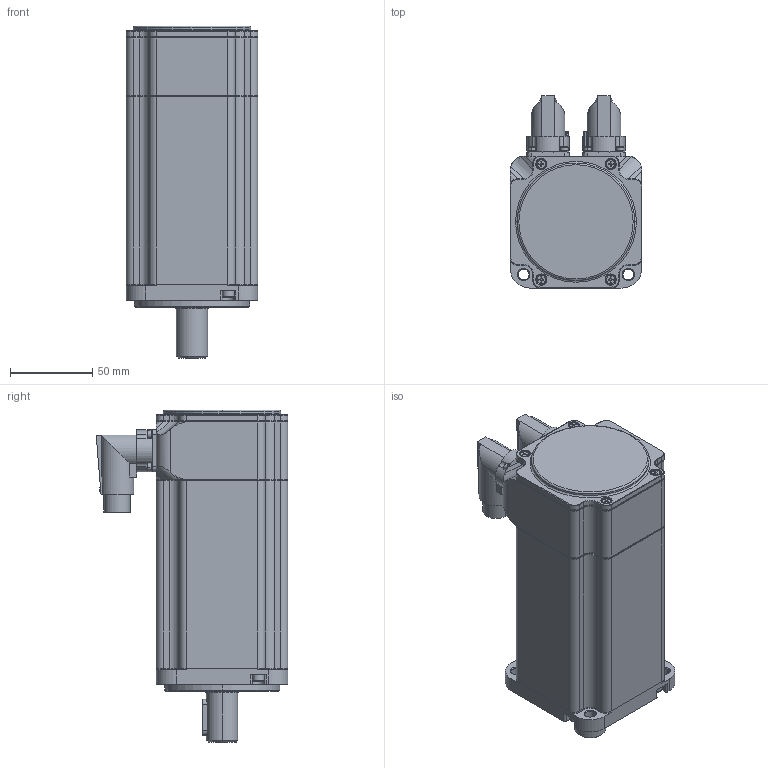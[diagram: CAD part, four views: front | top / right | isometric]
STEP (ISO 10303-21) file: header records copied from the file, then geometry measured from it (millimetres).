
FILE_DESCRIPTION (( 'STEP AP203' ), '1' );
FILE_NAME ('L80-1003026XNC（SMH80-1003026XNC-XX）.STEP', '2016-06-08T01:43:33', ( '微软用户' ), ( '微软中国' ), 'SwSTEP 2.0', 'SolidWorks 2011', '' );
FILE_SCHEMA (( 'CONFIG_CONTROL_DESIGN' ));
Products named in the file (22): L80-1003026XNC（SMH80-1003026XNC-XX）; 嘎殤蚐猾; hexagon socket head cap screws gb_GB_FASTENER_SCREWS_HSHCS M2.5X6-N; spring lock washers--normal type gb_GB_FASTENER_WASHER_SW 2.5; M17萇埭; M17陓瘍; circlips for holes--type a gb_GB_CONNECTING_PIECE_RING_RRH 42; 瑩; cross recessed countersunk head screws gb2_GB_CROSS_SCREWS_TYPE10 M3X8-6.35-H1-N; hexagon socket head cap screws gb_GB_FASTENER_SCREWS_HSHCS M4X35-N; 鎢攫欶綴裔; 躇猾菜; 鎢攫欶; 蛌赽軞傖_Default; deep groove ball bearings gb_Rolling bearings 6004 GB 276-94; 蛌赽郪璃_Default; 蛌粣; 隅赽軞傖_Default; hexagon socket head cap screws gb_GB_FASTENER_SCREWS_HSHCS M4X16-N; ヶ傷裔И璃; 儂褲; ヶ傷裔
Assembly tree (45 placements, depth 4):
  L80-1003026XNC（SMH80-1003026XNC-XX）
    cross recessed countersunk head screws gb2_GB_CROSS_SCREWS_TYPE10 M3X8-6.35-H1-N  x4
    hexagon socket head cap screws gb_GB_FASTENER_SCREWS_HSHCS M2.5X6-N  x8
    spring lock washers--normal type gb_GB_FASTENER_WASHER_SW 2.5  x8
    M17萇埭
    hexagon socket head cap screws gb_GB_FASTENER_SCREWS_HSHCS M4X35-N  x4
    鎢攫欶綴裔
    躇猾菜  x2
    鎢攫欶
    蛌赽軞傖_Default
      deep groove ball bearings gb_Rolling bearings 6004 GB 276-94
      蛌赽郪璃_Default
        蛌粣
    隅赽軞傖_Default
      ヶ傷裔
      hexagon socket head cap screws gb_GB_FASTENER_SCREWS_HSHCS M4X16-N  x4
      ヶ傷裔И璃
      儂褲
    嘎殤蚐猾
    M17陓瘍
    circlips for holes--type a gb_GB_CONNECTING_PIECE_RING_RRH 42
    瑩
Bounding box: 80 x 116.6 x 202 mm (x, y, z)
Volume: 344530.1 mm3; surface area: 182829.9 mm2
Topology: 42 solids, 42 shells, 1946 faces, 5145 edges, 3291 vertices
Faces by surface type: plane 771, cylinder 770, cone 169, torus 118, bspline 66, sphere 52
Entity records: 51944 total; most frequent: CARTESIAN_POINT 12824, DIRECTION 7794, ORIENTED_EDGE 7486, EDGE_CURVE 3743, AXIS2_PLACEMENT_3D 3046, VERTEX_POINT 2442, LINE 1702, VECTOR 1702
